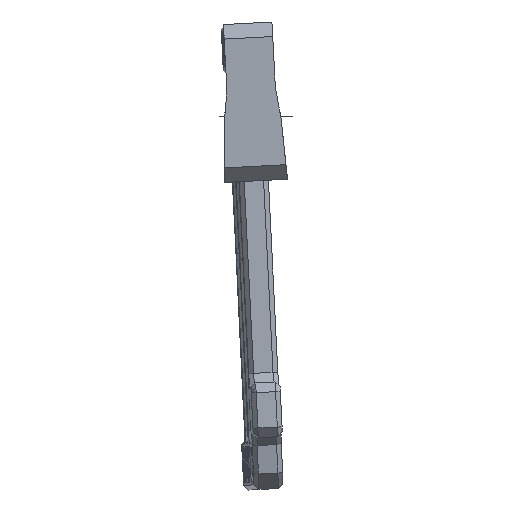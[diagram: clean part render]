
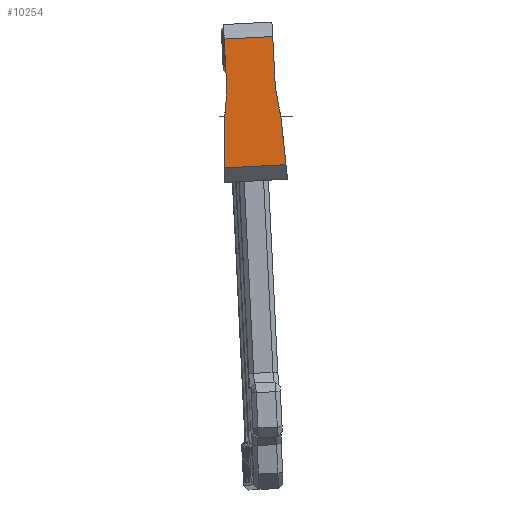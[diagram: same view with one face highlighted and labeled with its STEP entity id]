
A CAD part, left-side view. The second image highlights one B-rep face of the part: STEP entity #10254.
In plain terms, the highlighted planar face has unit normal (-1, 0, 0).
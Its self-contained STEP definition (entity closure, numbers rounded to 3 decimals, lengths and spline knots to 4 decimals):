
#1942=PLANE($,#49493);
#10254=ADVANCED_FACE($,(#13497),#1942,.T.);
#13497=FACE_OUTER_BOUND($,#16770,.T.);
#16770=EDGE_LOOP($,(#21490,#21491,#21492,#21493,#21494,#21495,#21496,#21497,
#21498,#21499));
#21490=ORIENTED_EDGE($,*,*,#35809,.F.);
#21491=ORIENTED_EDGE($,*,*,#35820,.F.);
#21492=ORIENTED_EDGE($,*,*,#35818,.F.);
#21493=ORIENTED_EDGE($,*,*,#35897,.F.);
#21494=ORIENTED_EDGE($,*,*,#35893,.T.);
#21495=ORIENTED_EDGE($,*,*,#35816,.F.);
#21496=ORIENTED_EDGE($,*,*,#35814,.F.);
#21497=ORIENTED_EDGE($,*,*,#35812,.F.);
#21498=ORIENTED_EDGE($,*,*,#35904,.F.);
#21499=ORIENTED_EDGE($,*,*,#35901,.F.);
#35809=EDGE_CURVE($,#43239,#43300,#48676,.T.);
#35812=EDGE_CURVE($,#43240,#43241,#48679,.T.);
#35814=EDGE_CURVE($,#43241,#43242,#48681,.T.);
#35816=EDGE_CURVE($,#43242,#43295,#48683,.T.);
#35818=EDGE_CURVE($,#43243,#43244,#48685,.T.);
#35820=EDGE_CURVE($,#43244,#43239,#48687,.T.);
#35893=EDGE_CURVE($,#43297,#43295,#48746,.T.);
#35897=EDGE_CURVE($,#43297,#43243,#48750,.T.);
#35901=EDGE_CURVE($,#43300,#43302,#48752,.T.);
#35904=EDGE_CURVE($,#43302,#43240,#48755,.T.);
#43239=VERTEX_POINT($,#60920);
#43240=VERTEX_POINT($,#60921);
#43241=VERTEX_POINT($,#60922);
#43242=VERTEX_POINT($,#60923);
#43243=VERTEX_POINT($,#60924);
#43244=VERTEX_POINT($,#60925);
#43295=VERTEX_POINT($,#60976);
#43297=VERTEX_POINT($,#60978);
#43300=VERTEX_POINT($,#60981);
#43302=VERTEX_POINT($,#60983);
#48676=(
BOUNDED_CURVE()
B_SPLINE_CURVE(2,(#57596,#57597,#57598),.UNSPECIFIED.,.F.,.F.)
B_SPLINE_CURVE_WITH_KNOTS((3,3),(0.7157,3.1648),.UNSPECIFIED.)
CURVE()
GEOMETRIC_REPRESENTATION_ITEM()
RATIONAL_B_SPLINE_CURVE((1.,1.,1.))
REPRESENTATION_ITEM($)
);
#48679=(
BOUNDED_CURVE()
B_SPLINE_CURVE(2,(#57603,#57604,#57605),.UNSPECIFIED.,.F.,.F.)
B_SPLINE_CURVE_WITH_KNOTS((3,3),(10.3659,11.0816),.UNSPECIFIED.)
CURVE()
GEOMETRIC_REPRESENTATION_ITEM()
RATIONAL_B_SPLINE_CURVE((1.,0.996,1.))
REPRESENTATION_ITEM($)
);
#48681=(
BOUNDED_CURVE()
B_SPLINE_CURVE(2,(#57608,#57609,#57610),.UNSPECIFIED.,.F.,.F.)
B_SPLINE_CURVE_WITH_KNOTS((3,3),(11.0816,12.0067),.UNSPECIFIED.)
CURVE()
GEOMETRIC_REPRESENTATION_ITEM()
RATIONAL_B_SPLINE_CURVE((1.,0.993,1.))
REPRESENTATION_ITEM($)
);
#48683=(
BOUNDED_CURVE()
B_SPLINE_CURVE(2,(#57613,#57614,#57615),.UNSPECIFIED.,.F.,.F.)
B_SPLINE_CURVE_WITH_KNOTS((3,3),(12.0067,14.5618),.UNSPECIFIED.)
CURVE()
GEOMETRIC_REPRESENTATION_ITEM()
RATIONAL_B_SPLINE_CURVE((1.,1.,1.))
REPRESENTATION_ITEM($)
);
#48685=(
BOUNDED_CURVE()
B_SPLINE_CURVE(2,(#57618,#57619,#57620),.UNSPECIFIED.,.F.,.F.)
B_SPLINE_CURVE_WITH_KNOTS((3,3),(21.1169,22.042),.UNSPECIFIED.)
CURVE()
GEOMETRIC_REPRESENTATION_ITEM()
RATIONAL_B_SPLINE_CURVE((1.,0.993,1.))
REPRESENTATION_ITEM($)
);
#48687=(
BOUNDED_CURVE()
B_SPLINE_CURVE(2,(#57623,#57624,#57625),.UNSPECIFIED.,.F.,.F.)
B_SPLINE_CURVE_WITH_KNOTS((3,3),(22.042,22.7576),.UNSPECIFIED.)
CURVE()
GEOMETRIC_REPRESENTATION_ITEM()
RATIONAL_B_SPLINE_CURVE((1.,0.996,1.))
REPRESENTATION_ITEM($)
);
#48746=(
BOUNDED_CURVE()
B_SPLINE_CURVE(1,(#57846,#57847),.UNSPECIFIED.,.F.,.F.)
B_SPLINE_CURVE_WITH_KNOTS((2,2),(2.8188,5.3188),.UNSPECIFIED.)
CURVE()
GEOMETRIC_REPRESENTATION_ITEM()
RATIONAL_B_SPLINE_CURVE((1.,1.))
REPRESENTATION_ITEM($)
);
#48750=(
BOUNDED_CURVE()
B_SPLINE_CURVE(2,(#57854,#57855,#57856),.UNSPECIFIED.,.F.,.F.)
B_SPLINE_CURVE_WITH_KNOTS((3,3),(18.5618,21.1169),.UNSPECIFIED.)
CURVE()
GEOMETRIC_REPRESENTATION_ITEM()
RATIONAL_B_SPLINE_CURVE((1.,1.,1.))
REPRESENTATION_ITEM($)
);
#48752=(
BOUNDED_CURVE()
B_SPLINE_CURVE(1,(#57877,#57878),.UNSPECIFIED.,.F.,.F.)
B_SPLINE_CURVE_WITH_KNOTS((2,2),(2.4831,5.6545),.UNSPECIFIED.)
CURVE()
GEOMETRIC_REPRESENTATION_ITEM()
RATIONAL_B_SPLINE_CURVE((1.,1.))
REPRESENTATION_ITEM($)
);
#48755=(
BOUNDED_CURVE()
B_SPLINE_CURVE(2,(#57883,#57884,#57885),.UNSPECIFIED.,.F.,.F.)
B_SPLINE_CURVE_WITH_KNOTS((3,3),(7.9168,10.3659),.UNSPECIFIED.)
CURVE()
GEOMETRIC_REPRESENTATION_ITEM()
RATIONAL_B_SPLINE_CURVE((1.,1.,1.))
REPRESENTATION_ITEM($)
);
#49493=AXIS2_PLACEMENT_3D($,#59690,#50556,$);
#50556=DIRECTION($,(-1.,0.,0.));
#57596=CARTESIAN_POINT($,(-15.0939,60.5797,54.0168));
#57597=CARTESIAN_POINT($,(-15.0939,60.4517,52.799));
#57598=CARTESIAN_POINT($,(-15.0939,60.3237,51.5811));
#57603=CARTESIAN_POINT($,(-15.0939,63.4908,53.8643));
#57604=CARTESIAN_POINT($,(-15.0939,63.4908,54.223));
#57605=CARTESIAN_POINT($,(-15.0939,63.4269,54.5761));
#57608=CARTESIAN_POINT($,(-15.0939,63.4269,54.5761));
#57609=CARTESIAN_POINT($,(-15.0939,63.3442,55.0333));
#57610=CARTESIAN_POINT($,(-15.0939,63.3685,55.4973));
#57613=CARTESIAN_POINT($,(-15.0939,63.3685,55.4973));
#57614=CARTESIAN_POINT($,(-15.0939,63.4354,56.7731));
#57615=CARTESIAN_POINT($,(-15.0939,63.5023,58.0489));
#57618=CARTESIAN_POINT($,(-15.0939,60.872,55.6281));
#57619=CARTESIAN_POINT($,(-15.0939,60.8477,55.1641));
#57620=CARTESIAN_POINT($,(-15.0939,60.7176,54.7181));
#57623=CARTESIAN_POINT($,(-15.0939,60.7176,54.7181));
#57624=CARTESIAN_POINT($,(-15.0939,60.6172,54.3736));
#57625=CARTESIAN_POINT($,(-15.0939,60.5797,54.0168));
#57846=CARTESIAN_POINT($,(-15.0939,61.0057,58.1797));
#57847=CARTESIAN_POINT($,(-15.0939,63.5023,58.0489));
#57854=CARTESIAN_POINT($,(-15.0939,61.0057,58.1797));
#57855=CARTESIAN_POINT($,(-15.0939,60.9388,56.9039));
#57856=CARTESIAN_POINT($,(-15.0939,60.872,55.6281));
#57877=CARTESIAN_POINT($,(-15.0939,60.3237,51.5811));
#57878=CARTESIAN_POINT($,(-15.0939,63.4908,51.4151));
#57883=CARTESIAN_POINT($,(-15.0939,63.4908,51.4151));
#57884=CARTESIAN_POINT($,(-15.0939,63.4908,52.6397));
#57885=CARTESIAN_POINT($,(-15.0939,63.4908,53.8643));
#59690=CARTESIAN_POINT($,(-15.0939,63.8375,58.0313));
#60920=CARTESIAN_POINT($,(-15.0939,60.5797,54.0168));
#60921=CARTESIAN_POINT($,(-15.0939,63.4908,53.8643));
#60922=CARTESIAN_POINT($,(-15.0939,63.4269,54.5761));
#60923=CARTESIAN_POINT($,(-15.0939,63.3685,55.4973));
#60924=CARTESIAN_POINT($,(-15.0939,60.872,55.6281));
#60925=CARTESIAN_POINT($,(-15.0939,60.7176,54.7181));
#60976=CARTESIAN_POINT($,(-15.0939,63.5023,58.0489));
#60978=CARTESIAN_POINT($,(-15.0939,61.0057,58.1797));
#60981=CARTESIAN_POINT($,(-15.0939,60.3237,51.5811));
#60983=CARTESIAN_POINT($,(-15.0939,63.4908,51.4151));
